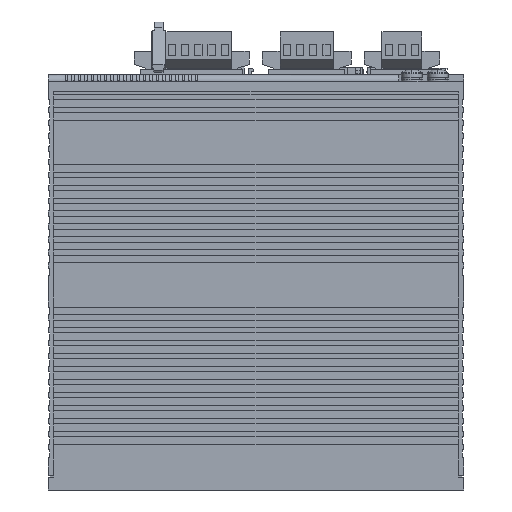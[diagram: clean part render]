
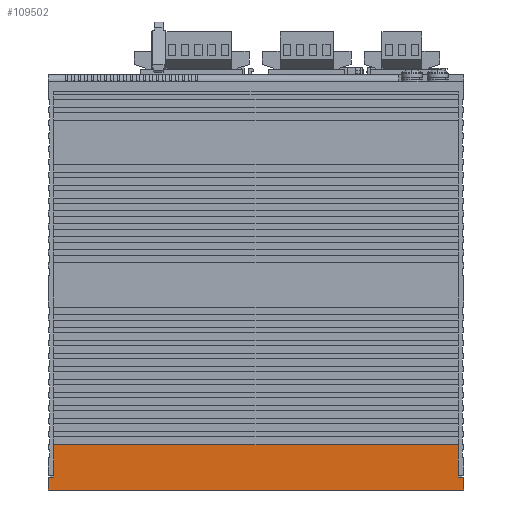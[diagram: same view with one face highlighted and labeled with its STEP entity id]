
A CAD part, left-side view. The second image highlights one B-rep face of the part: STEP entity #109502.
In plain terms, the highlighted planar face has unit normal (-1, 0, 0).
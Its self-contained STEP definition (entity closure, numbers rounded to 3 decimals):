
#271 = ORIENTED_EDGE ( 'NONE', *, *, #57679, .F. ) ;
#1942 = LINE ( 'NONE', #59630, #152055 ) ;
#5434 = CARTESIAN_POINT ( 'NONE',  ( -50., -2., 5.6 ) ) ;
#6337 = VECTOR ( 'NONE', #121296, 1000. ) ;
#13125 = VERTEX_POINT ( 'NONE', #191809 ) ;
#18599 = DIRECTION ( 'NONE',  ( 0., -1., 0. ) ) ;
#20502 = CARTESIAN_POINT ( 'NONE',  ( -50., 0., 5. ) ) ;
#28557 = CARTESIAN_POINT ( 'NONE',  ( -50., -2., 17.5 ) ) ;
#28681 = DIRECTION ( 'NONE',  ( 0., 0., 1. ) ) ;
#31034 = VECTOR ( 'NONE', #193237, 1000. ) ;
#32511 = VERTEX_POINT ( 'NONE', #100315 ) ;
#39572 = DIRECTION ( 'NONE',  ( 0., 0., -1. ) ) ;
#40971 = LINE ( 'NONE', #193932, #149495 ) ;
#41388 = EDGE_LOOP ( 'NONE', ( #236269, #50779, #173726, #271, #137031, #108171, #114717, #42633, #179963, #82200 ) ) ;
#42281 = DIRECTION ( 'NONE',  ( 0., -1., 0. ) ) ;
#42633 = ORIENTED_EDGE ( 'NONE', *, *, #245819, .F. ) ;
#47842 = FACE_OUTER_BOUND ( 'NONE', #41388, .T. ) ;
#47854 = VECTOR ( 'NONE', #91668, 1000. ) ;
#50779 = ORIENTED_EDGE ( 'NONE', *, *, #164230, .F. ) ;
#54426 = VERTEX_POINT ( 'NONE', #76944 ) ;
#57679 = EDGE_CURVE ( 'NONE', #110604, #68106, #102669, .T. ) ;
#58367 = VECTOR ( 'NONE', #87645, 1000. ) ;
#59630 = CARTESIAN_POINT ( 'NONE',  ( -50., 0., 160. ) ) ;
#63265 = VERTEX_POINT ( 'NONE', #116433 ) ;
#66667 = DIRECTION ( 'NONE',  ( 1., 0., 0. ) ) ;
#67909 = PLANE ( 'NONE',  #186423 ) ;
#68106 = VERTEX_POINT ( 'NONE', #5434 ) ;
#76944 = CARTESIAN_POINT ( 'NONE',  ( -50., -158., 5.6 ) ) ;
#78774 = EDGE_CURVE ( 'NONE', #32511, #63265, #227007, .T. ) ;
#81983 = EDGE_CURVE ( 'NONE', #241047, #54426, #196093, .T. ) ;
#82200 = ORIENTED_EDGE ( 'NONE', *, *, #243895, .F. ) ;
#87645 = DIRECTION ( 'NONE',  ( 0., 0., 1. ) ) ;
#87933 = DIRECTION ( 'NONE',  ( 0., 1., 0. ) ) ;
#90376 = VECTOR ( 'NONE', #28681, 1000. ) ;
#91668 = DIRECTION ( 'NONE',  ( 0., -1., 0. ) ) ;
#100315 = CARTESIAN_POINT ( 'NONE',  ( -50., -158., 5. ) ) ;
#100592 = CARTESIAN_POINT ( 'NONE',  ( -50., 0., 0. ) ) ;
#100817 = DIRECTION ( 'NONE',  ( 0., 0., -1. ) ) ;
#102669 = LINE ( 'NONE', #217983, #90376 ) ;
#108171 = ORIENTED_EDGE ( 'NONE', *, *, #165547, .T. ) ;
#109502 = ADVANCED_FACE ( 'NONE', ( #47842 ), #67909, .F. ) ;
#109734 = EDGE_CURVE ( 'NONE', #68106, #122250, #204174, .T. ) ;
#110604 = VERTEX_POINT ( 'NONE', #213322 ) ;
#114717 = ORIENTED_EDGE ( 'NONE', *, *, #228326, .T. ) ;
#116433 = CARTESIAN_POINT ( 'NONE',  ( -50., -160., 5. ) ) ;
#121296 = DIRECTION ( 'NONE',  ( 0., 0., -1. ) ) ;
#122250 = VERTEX_POINT ( 'NONE', #28557 ) ;
#127714 = VECTOR ( 'NONE', #42281, 1000. ) ;
#127986 = CARTESIAN_POINT ( 'NONE',  ( -50., -158., 17.5 ) ) ;
#128017 = CARTESIAN_POINT ( 'NONE',  ( -50., 0., 160. ) ) ;
#137031 = ORIENTED_EDGE ( 'NONE', *, *, #213430, .F. ) ;
#149495 = VECTOR ( 'NONE', #151406, 1000. ) ;
#151406 = DIRECTION ( 'NONE',  ( 0., -1., 0. ) ) ;
#152055 = VECTOR ( 'NONE', #39572, 1000. ) ;
#153981 = LINE ( 'NONE', #230420, #164409 ) ;
#161372 = CARTESIAN_POINT ( 'NONE',  ( -50., -2., 17.5 ) ) ;
#164230 = EDGE_CURVE ( 'NONE', #122250, #241047, #236584, .T. ) ;
#164409 = VECTOR ( 'NONE', #18599, 1000. ) ;
#165547 = EDGE_CURVE ( 'NONE', #208778, #173233, #1942, .T. ) ;
#173233 = VERTEX_POINT ( 'NONE', #100592 ) ;
#173726 = ORIENTED_EDGE ( 'NONE', *, *, #109734, .F. ) ;
#178518 = CARTESIAN_POINT ( 'NONE',  ( -50., -158., 160. ) ) ;
#179963 = ORIENTED_EDGE ( 'NONE', *, *, #78774, .F. ) ;
#182917 = CARTESIAN_POINT ( 'NONE',  ( -50., -2., 160. ) ) ;
#186423 = AXIS2_PLACEMENT_3D ( 'NONE', #128017, #66667, #87933 ) ;
#191809 = CARTESIAN_POINT ( 'NONE',  ( -50., -160., 0. ) ) ;
#193237 = DIRECTION ( 'NONE',  ( 0., 0., -1. ) ) ;
#193932 = CARTESIAN_POINT ( 'NONE',  ( -50., 0., 0. ) ) ;
#196093 = LINE ( 'NONE', #178518, #197781 ) ;
#197781 = VECTOR ( 'NONE', #100817, 1000. ) ;
#200229 = LINE ( 'NONE', #236603, #6337 ) ;
#204174 = LINE ( 'NONE', #182917, #58367 ) ;
#208778 = VERTEX_POINT ( 'NONE', #20502 ) ;
#213257 = LINE ( 'NONE', #230833, #31034 ) ;
#213322 = CARTESIAN_POINT ( 'NONE',  ( -50., -2., 5. ) ) ;
#213430 = EDGE_CURVE ( 'NONE', #208778, #110604, #153981, .T. ) ;
#217983 = CARTESIAN_POINT ( 'NONE',  ( -50., -2., 5. ) ) ;
#227007 = LINE ( 'NONE', #229483, #47854 ) ;
#228326 = EDGE_CURVE ( 'NONE', #173233, #13125, #40971, .T. ) ;
#229483 = CARTESIAN_POINT ( 'NONE',  ( -50., -159.5, 5. ) ) ;
#230420 = CARTESIAN_POINT ( 'NONE',  ( -50., 0., 5. ) ) ;
#230833 = CARTESIAN_POINT ( 'NONE',  ( -50., -160., 160. ) ) ;
#236269 = ORIENTED_EDGE ( 'NONE', *, *, #81983, .F. ) ;
#236584 = LINE ( 'NONE', #161372, #127714 ) ;
#236603 = CARTESIAN_POINT ( 'NONE',  ( -50., -158., 5. ) ) ;
#241047 = VERTEX_POINT ( 'NONE', #127986 ) ;
#243895 = EDGE_CURVE ( 'NONE', #54426, #32511, #200229, .T. ) ;
#245819 = EDGE_CURVE ( 'NONE', #63265, #13125, #213257, .T. ) ;
